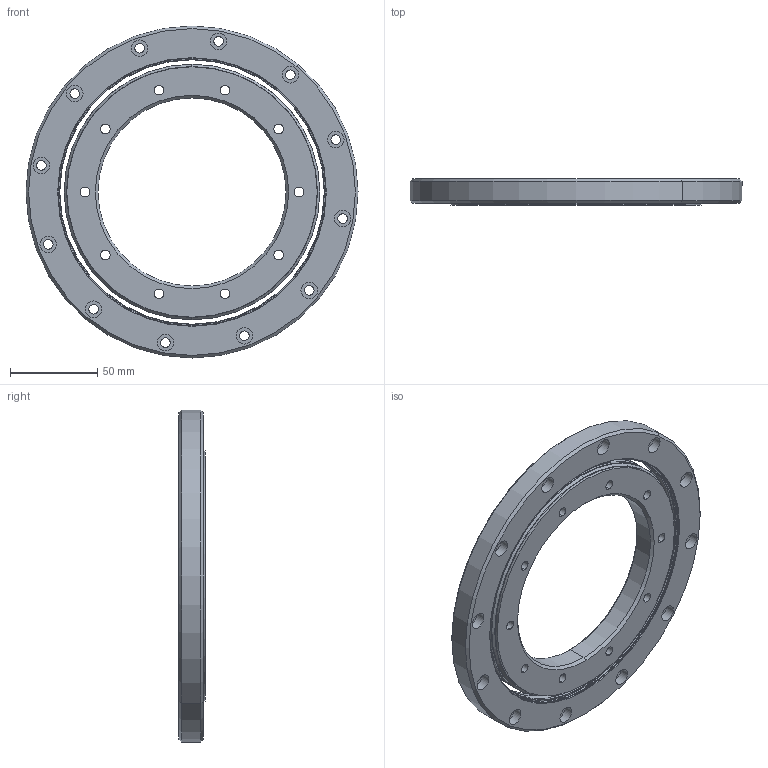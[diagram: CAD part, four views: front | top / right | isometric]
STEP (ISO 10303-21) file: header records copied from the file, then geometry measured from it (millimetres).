
FILE_DESCRIPTION (( 'STEP AP214' ), '1' );
FILE_NAME ('TTS2-108-192-15 Bearing Assembly.STEP', '2018-03-14T15:13:30', ( 'Admin' ), ( '' ), 'SwSTEP 2.0', 'SolidWorks 2018', '' );
FILE_SCHEMA (( 'AUTOMOTIVE_DESIGN' ));
Length unit declared in the file: inch
Products named in the file (3): TTS2 Outer Ring_TTS2-108-192-15; TTS2 Inner Ring_TTS2-108-192-15; TTS2-108-192-15 Bearing Assembly
Assembly tree (2 placements, depth 2):
  TTS2-108-192-15 Bearing Assembly
    TTS2 Inner Ring_TTS2-108-192-15
    TTS2 Outer Ring_TTS2-108-192-15
Bounding box: 190.5 x 15 x 190.5 mm (x, y, z)
Volume: 230819.6 mm3; surface area: 66768.4 mm2
Topology: 2 solids, 2 shells, 190 faces, 424 edges, 262 vertices
Faces by surface type: cylinder 112, cone 28, plane 28, torus 22
Entity records: 5576 total; most frequent: DIRECTION 1098, CARTESIAN_POINT 881, ORIENTED_EDGE 848, AXIS2_PLACEMENT_3D 479, EDGE_CURVE 424, CIRCLE 284, EDGE_LOOP 262, VERTEX_POINT 262
